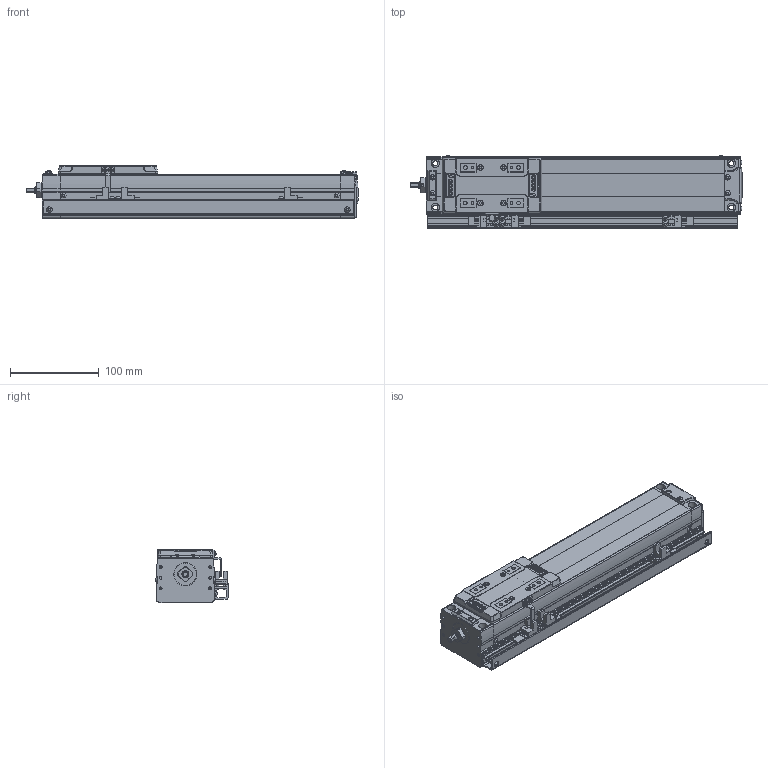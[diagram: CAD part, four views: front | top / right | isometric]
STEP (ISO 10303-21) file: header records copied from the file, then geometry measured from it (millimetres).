
FILE_DESCRIPTION(('STEP AP214'),'1');
FILE_NAME('Z:/Web/3D/SAN65/STP/SAN65ㅁㅁ-200+3SR.stp','2012-06-14T04:15:51',(' '),(' '),'Spatial InterOp 3D',' ',' ');
FILE_SCHEMA(('automotive_design'));
Length unit declared in the file: metre
Products named in the file (51): SAN65__-200; BODY-SAN65; REAR-SAN65; RRCV-SAN65; 스크루 : Round - M3.0 x 6.0; FRONT-SAN65; SHAFT-SAN65; RN8 x 0.75; SSFX-SAN65; SLIDE-SAN65; SLCV-SAN65; 스크루 : Countersunk - M3.0 x 6.0; ____197; 3SR; SRL-16x17-450L; - OT; EE-SX674; SBK-SX674-352; HOME; + OT; DOG; SDG-SAN65; 스크루 : Round - M3.0 x 5.0
Assembly tree (50 placements, depth 4):
  ____197
    SAN65__-200
      BODY-SAN65
      REAR-SAN65
        REAR-SAN65
        RRCV-SAN65
        스크루 : Round - M3.0 x 6.0
        스크루 : Round - M3.0 x 6.0
        스크루 : Round - M3.0 x 6.0
        스크루 : Round - M3.0 x 6.0
        스크루 : Round - M3.0 x 6.0
        스크루 : Round - M3.0 x 6.0
      FRONT-SAN65
        FRONT-SAN65
        SHAFT-SAN65
        RN8 x 0.75
        SSFX-SAN65
        스크루 : Round - M3.0 x 6.0
        스크루 : Round - M3.0 x 6.0
        스크루 : Round - M3.0 x 6.0
        스크루 : Round - M3.0 x 6.0
      SLIDE-SAN65
        SLIDE-SAN65
        SLCV-SAN65
        스크루 : Countersunk - M3.0 x 6.0
        스크루 : Countersunk - M3.0 x 6.0
        스크루 : Countersunk - M3.0 x 6.0
        스크루 : Countersunk - M3.0 x 6.0
    3SR
      SRL-16x17-450L
      스크루 : Round - M3.0 x 6.0
      스크루 : Round - M3.0 x 6.0
      - OT
        EE-SX674
        SBK-SX674-352
        스크루 : Round - M3.0 x 6.0
        스크루 : Round - M3.0 x 6.0
      HOME
        EE-SX674
        SBK-SX674-352
        스크루 : Round - M3.0 x 6.0
        스크루 : Round - M3.0 x 6.0
      + OT
        EE-SX674
        SBK-SX674-352
        스크루 : Round - M3.0 x 6.0
        스크루 : Round - M3.0 x 6.0
      DOG
        SDG-SAN65
        스크루 : Round - M3.0 x 5.0
        스크루 : Round - M3.0 x 5.0
Bounding box: 374.65 x 82.06 x 60 mm (x, y, z)
Volume: 1199160.1 mm3; surface area: 206933.5 mm2
Topology: 41 solids, 41 shells, 1867 faces, 4811 edges, 3142 vertices
Faces by surface type: plane 1243, cylinder 463, cone 85, sphere 32, bspline 26, torus 15, extrusion 3
Full cylindrical faces by diameter (mm): 0.571 x2, 0.706 x1, 1.727 x2, 2.132 x1, 2.2 x4, 2.5 x15, 2.528 x4, 3 x6, 3.121 x2, 3.3 x4, 3.4 x4, 3.5 x14, 4.2 x20, 4.849 x4, 5 x3, 5.5 x4, 5.987 x2, 6 x6, 6.5 x2, 7 x1, 8 x4, 9.5 x4, 13 x1, 15 x1, 19 x1
Entity records: 75591 total; most frequent: CARTESIAN_POINT 14302, DIRECTION 9423, ORIENTED_EDGE 9032, EDGE_CURVE 4516, VECTOR 3225, LINE 3222, AXIS2_PLACEMENT_3D 3099, VERTEX_POINT 3082
